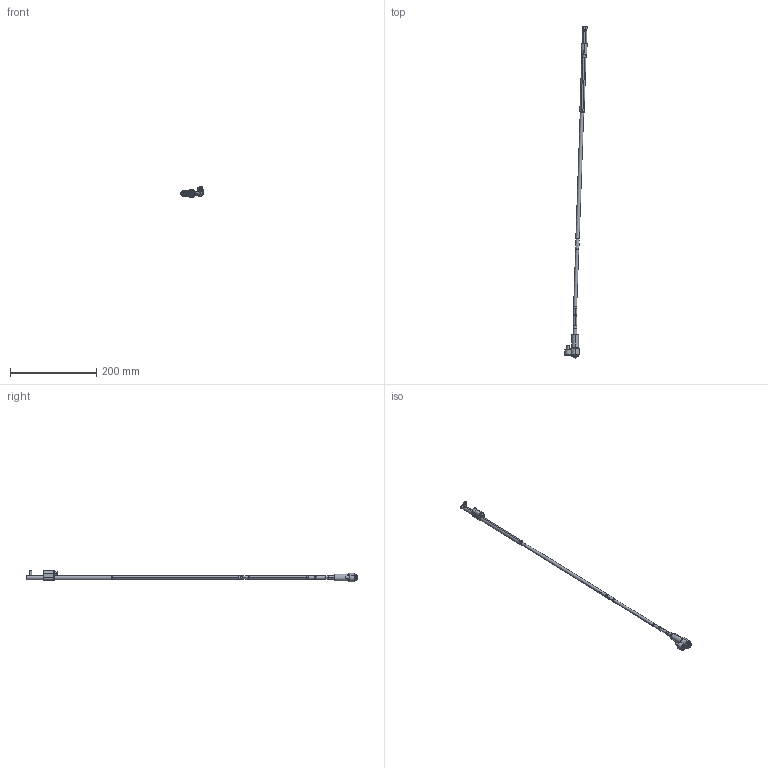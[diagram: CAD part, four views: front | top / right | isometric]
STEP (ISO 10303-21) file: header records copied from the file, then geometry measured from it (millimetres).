
FILE_DESCRIPTION (( 'STEP AP214' ), '1' );
FILE_NAME ('WL080125-EJE 2°.STEP', '2021-03-19T15:29:04', ( '' ), ( '' ), 'SwSTEP 2.0', 'SolidWorks 2019', '' );
FILE_SCHEMA (( 'AUTOMOTIVE_DESIGN' ));
Length unit declared in the file: millimetre
Products named in the file (17): Web-WL08-F00.SLDPRT; WL080125-EJE 2°; WL080100-C; WL080100-E; Web-WL08-A1; Web-WL08-A3; Web-WP08-1; Web-WL08XX-A7_ON-WL080125-2; Web-WL08-A2; 1DIN912616_DIN 912 M6 x 16 --- 16C; 9DR2206-TOR; WL080100-D; Web-WL08-F01; 3IMAN4X2-150_con sello; WL080100-B1_WL0800FF-1; 1DIN912545_DIN 912 M5 x 50 --- 50C; WL080100-B_WL0800FF
Assembly tree (16 placements, depth 3):
  WL080125-EJE 2°
    Web-WP08-1
    Web-WL08XX-A7_ON-WL080125-2
    Web-WL08-A3
    Web-WL08-A2
    Web-WL08-A1
    WL080100-D
    WL080100-C
    WL080100-B_WL0800FF
      WL080100-B1_WL0800FF-1
      3IMAN4X2-150_con sello
    WL080100-E
    9DR2206-TOR
    Web-WL08-F00.SLDPRT
      Web-WL08-F01
      1DIN912545_DIN 912 M5 x 50 --- 50C
      1DIN912616_DIN 912 M6 x 16 --- 16C
Bounding box: 51.82 x 771.76 x 26.9 mm (x, y, z)
Volume: 58701.5 mm3; surface area: 34415.9 mm2
Topology: 15 solids, 15 shells, 424 faces, 888 edges, 516 vertices
Faces by surface type: plane 132, cylinder 128, cone 116, torus 48
Entity records: 13492 total; most frequent: DIRECTION 2218, CARTESIAN_POINT 2045, ORIENTED_EDGE 1756, AXIS2_PLACEMENT_3D 921, EDGE_CURVE 878, VERTEX_POINT 516, CIRCLE 476, EDGE_LOOP 468
